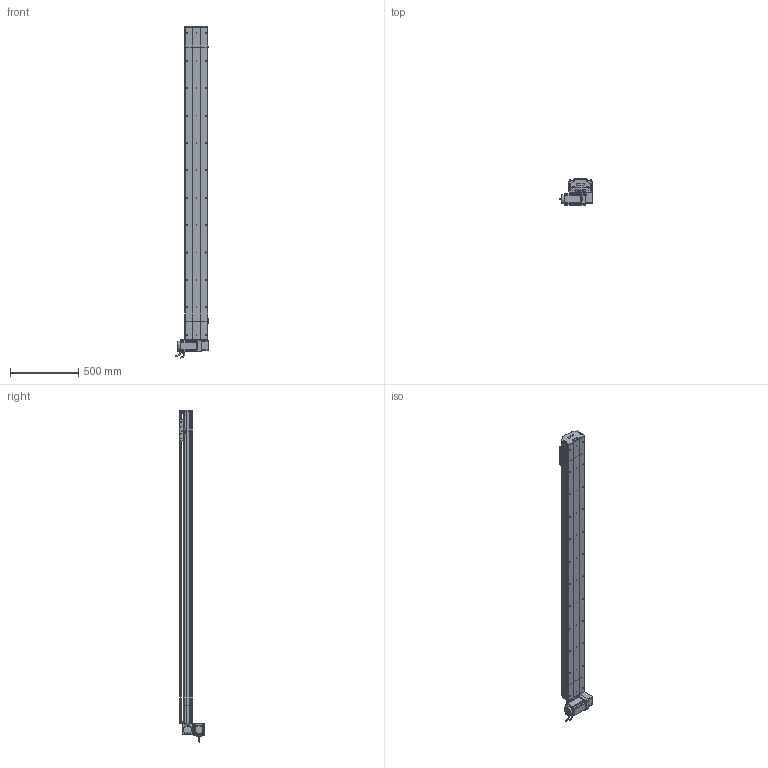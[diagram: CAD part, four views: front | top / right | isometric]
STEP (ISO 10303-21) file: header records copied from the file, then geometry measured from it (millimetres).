
FILE_DESCRIPTION (( 'STEP AP214' ), '1' );
FILE_NAME ('D17 TBH LU S2000.STEP', '2010-06-30T08:24:54', ( 'Christophe Gaillard' ), ( 'SGA' ), 'SwSTEP 2.0', 'SolidWorks 2010', '' );
FILE_SCHEMA (( 'AUTOMOTIVE_DESIGN' ));
Length unit declared in the file: millimetre
Products named in the file (40): corps 90BLDC125A-640; avant 90BLDC125A-640; Moteur motionking 90BLDC125A-640; Conecteur_Default; Conecteur2_Default; codeur 90BLDC125-640; Vis M5 L16-2_Default; vis M5 L16_Default; Plaque racord D17_Default; vis M5 L70_Default; tete d''axe poulie D17B; corpl tail D17B_Default; Tail D17B_Default; poulie tail_Default; plaque de  bout tail D17B_Default; Rail D17B; vis M5 L8 90°_Default; couvercle D17B_Default; Couroie tail D17B_Default; Chariot D17; chariot D17S_Default; vis M5 L25_Default; cache D17_Default; Arbre+rail head D17B; course 2000 D17B_Default; Couroie+ rail D17 Course 2000 ; corp D17B 2000_Default; plaque de  bout head D17B LU_Default; couvercle D17B head_Default; cache arbre D17_Default; corpl head D17 _Default; vis M5 L5_Default; Head LU D17B_Default; couvercle D17B course L2000_Default; vis M5 L12_Default; guide D17; couroie head D17_Default; Renvoi LU_Default; poulie head_Default; D17 TBH LU S2000
Assembly tree (70 placements, depth 4):
  D17 TBH LU S2000
    course 2000 D17B_Default
      corp D17B 2000_Default
      Couroie+ rail D17 Course 2000 
      couvercle D17B course L2000_Default
    Tail D17B_Default
      vis M5 L12_Default  x4
      vis M5 L8 90°_Default  x2
      plaque de  bout tail D17B_Default
      Couroie tail D17B_Default
      vis M5 L25_Default  x2
      couvercle D17B_Default
      poulie tail_Default
      tete d''axe poulie D17B
      Rail D17B
      corpl tail D17B_Default
    Head LU D17B_Default
      cache arbre D17_Default
      vis M5 L12_Default  x8
      Plaque racord D17_Default
      vis M5 L70_Default  x4
      Vis M5 L16-2_Default  x4
      corpl head D17 _Default
      couroie head D17_Default
      vis M5 L5_Default  x4
      vis M5 L16_Default  x2
      couvercle D17B head_Default
      poulie head_Default
      Renvoi LU_Default
      vis M5 L25_Default  x2
      Moteur motionking 90BLDC125A-640
        codeur 90BLDC125-640
        corps 90BLDC125A-640
        Conecteur_Default
        Conecteur2_Default
        avant 90BLDC125A-640
      plaque de  bout head D17B LU_Default
      Arbre+rail head D17B
      cache D17_Default  x2
    chariot D17S_Default
      vis M5 L12_Default  x4
      guide D17  x2
      Chariot D17
Bounding box: 245.2 x 188.65 x 2423.95 mm (x, y, z)
Volume: 14321055.9 mm3; surface area: 4113592.2 mm2
Topology: 94 solids, 94 shells, 2713 faces, 6865 edges, 4418 vertices
Faces by surface type: plane 1607, cylinder 793, bspline 136, cone 88, torus 85, sphere 4
Entity records: 85272 total; most frequent: CARTESIAN_POINT 25149, ORIENTED_EDGE 10502, DIRECTION 9964, EDGE_CURVE 5251, VECTOR 3470, LINE 3470, VERTEX_POINT 3442, AXIS2_PLACEMENT_3D 3247
